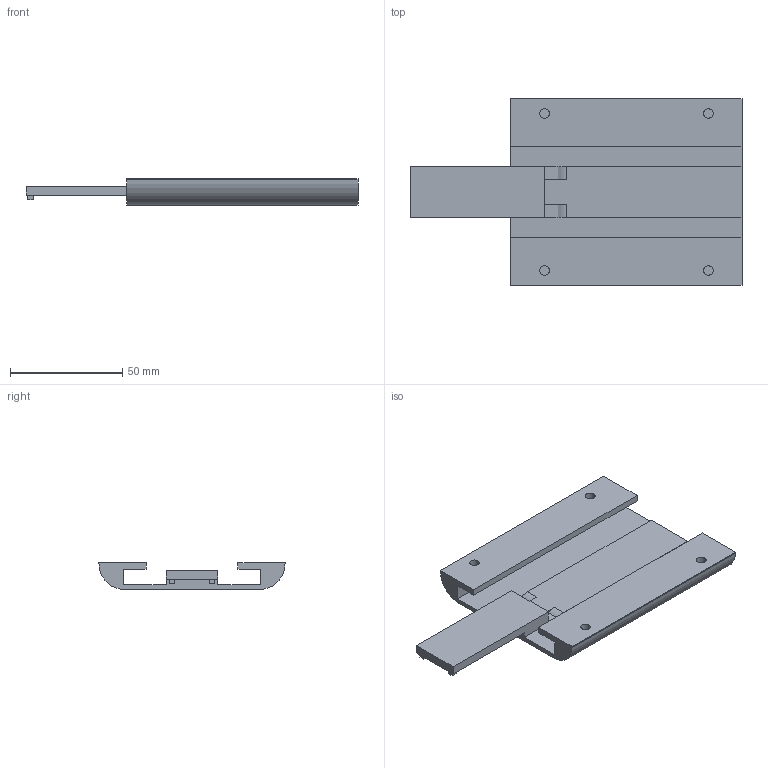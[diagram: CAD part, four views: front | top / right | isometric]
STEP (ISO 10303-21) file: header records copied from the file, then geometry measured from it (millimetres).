
FILE_DESCRIPTION(('HOOPS Exchange Step'),'2;1');
FILE_NAME('/Users/tim/Library/Containers/com.shapr3d.shapr/Data/tmp/export/temp_export','2024-03-22T11:56:28-04:00',('tim'),('Shapr3D Limited'),'HOOPS Exchange 2023.2','Shapr3D','Authorized');
FILE_SCHEMA( ('AUTOMOTIVE_DESIGN { 1 0 10303 214 1 1 1 1 }') );
Length unit declared in the file: millimetre
Products named in the file (1): V2 Final Frame
Bounding box: 148 x 83 x 12 mm (x, y, z)
Volume: 47167 mm3; surface area: 29580.5 mm2
Topology: 1 solids, 1 shells, 74 faces, 186 edges, 124 vertices
Faces by surface type: plane 62, cylinder 12
Full cylindrical faces by diameter (mm): 4.25 x8
Entity records: 2238 total; most frequent: CARTESIAN_POINT 385, ORIENTED_EDGE 372, DIRECTION 364, EDGE_CURVE 186, VECTOR 158, LINE 158, VERTEX_POINT 124, AXIS2_PLACEMENT_3D 103
